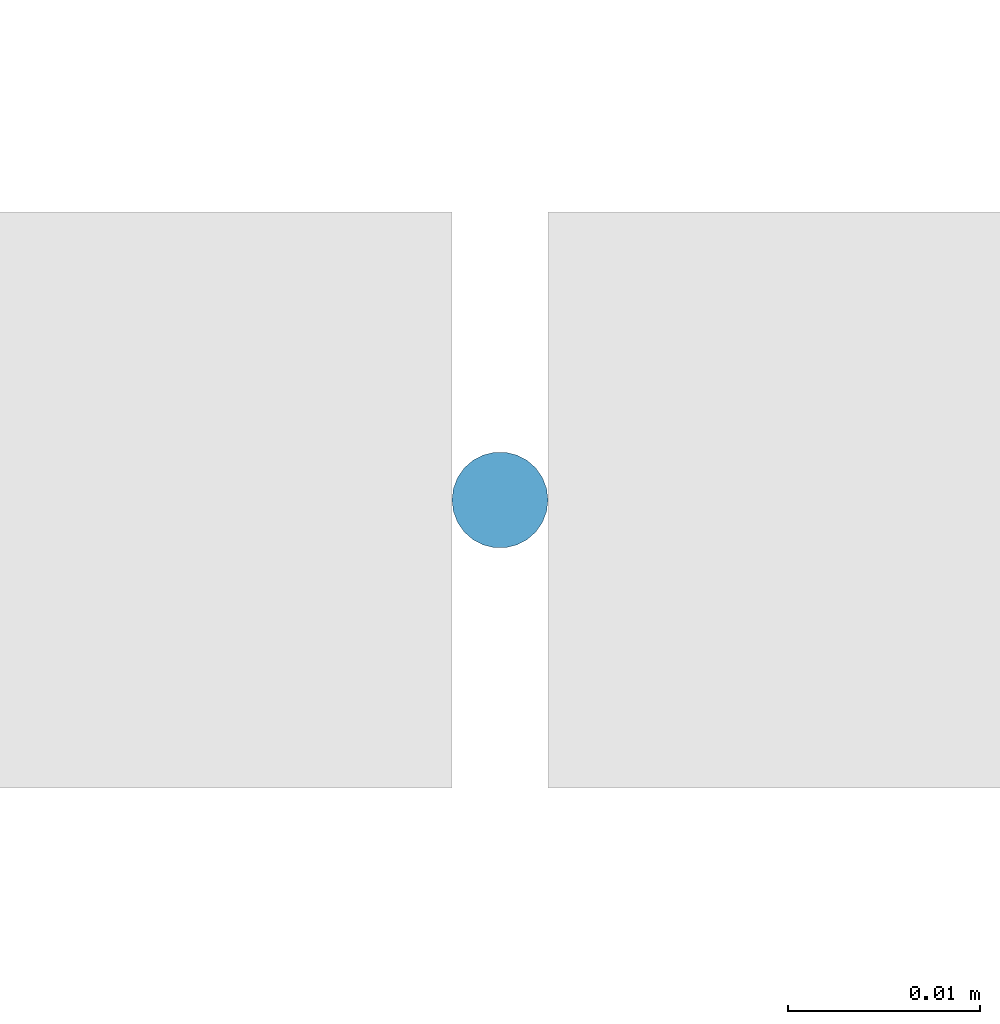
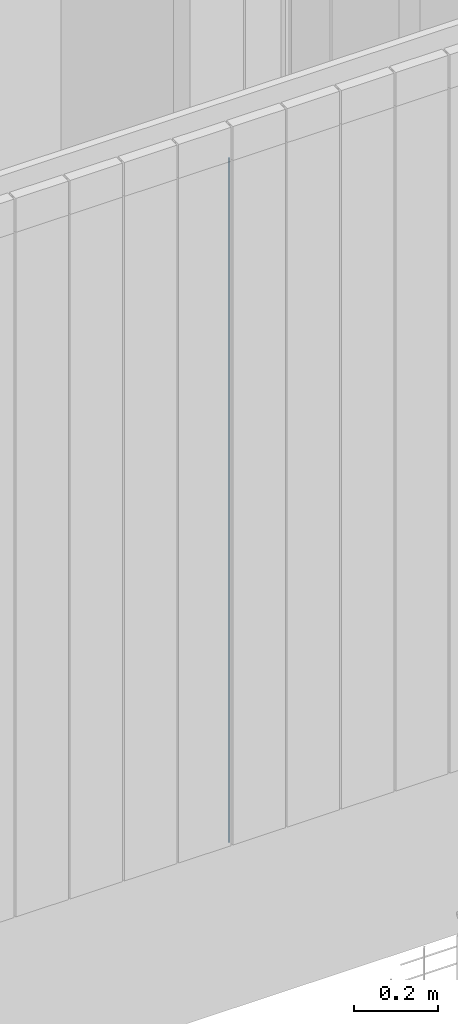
# One storey, part 15 of 81: 1 member, 1 element without a shape of its own.
"""IFC2X3 building model written with IfcOpenShell, lengths in metres."""

from ifc_helpers import new_model, entity, si_unit, converted_unit, derived_unit, direction, frame, frame_2d, origin, place, context, subcontext, project, spatial, circle, extrude, source, transform, mapped, material, type_object, type_shapes, element, aggregate, save


model = new_model("IFC2X3")

# Units and contexts
model_context = context("Model", 3, precision=1e-05, world=origin(), true_north=direction((6.12303176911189e-17, 1.0)))
body_context = subcontext(model_context, "Body", "Model", "MODEL_VIEW")
ifc_project = project(units=[si_unit("LENGTHUNIT", "METRE"), si_unit("AREAUNIT", "SQUARE_METRE"), si_unit("VOLUMEUNIT", "CUBIC_METRE"), converted_unit("PLANEANGLEUNIT", "DEGREE", entity("IfcRatioMeasure", 0.0174532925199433), si_unit("PLANEANGLEUNIT", "RADIAN"), dimensions=[0, 0, 0, 0, 0, 0, 0]), si_unit("MASSUNIT", "GRAM", prefix="KILO"), derived_unit("MASSDENSITYUNIT", [(si_unit("MASSUNIT", "GRAM", prefix="KILO"), 1), (si_unit("LENGTHUNIT", "METRE"), -3)]), derived_unit("MOMENTOFINERTIAUNIT", [(si_unit("LENGTHUNIT", "METRE"), 4)]), si_unit("TIMEUNIT", "SECOND"), si_unit("FREQUENCYUNIT", "HERTZ"), si_unit("THERMODYNAMICTEMPERATUREUNIT", "DEGREE_CELSIUS"), derived_unit("THERMALTRANSMITTANCEUNIT", [(si_unit("MASSUNIT", "GRAM", prefix="KILO"), 1), (si_unit("THERMODYNAMICTEMPERATUREUNIT", "KELVIN"), -1), (si_unit("TIMEUNIT", "SECOND"), -3)]), derived_unit("VOLUMETRICFLOWRATEUNIT", [(si_unit("LENGTHUNIT", "METRE"), 3), (si_unit("TIMEUNIT", "SECOND"), -1)]), si_unit("ELECTRICCURRENTUNIT", "AMPERE"), si_unit("ELECTRICVOLTAGEUNIT", "VOLT"), si_unit("POWERUNIT", "WATT"), si_unit("FORCEUNIT", "NEWTON", prefix="KILO"), si_unit("ILLUMINANCEUNIT", "LUX"), si_unit("LUMINOUSFLUXUNIT", "LUMEN"), si_unit("LUMINOUSINTENSITYUNIT", "CANDELA"), derived_unit("USERDEFINED", [(si_unit("MASSUNIT", "GRAM", prefix="KILO"), -1), (si_unit("LENGTHUNIT", "METRE"), -2), (si_unit("TIMEUNIT", "SECOND"), 3), (si_unit("LUMINOUSFLUXUNIT", "LUMEN"), 1)]), derived_unit("LINEARVELOCITYUNIT", [(si_unit("LENGTHUNIT", "METRE"), 1), (si_unit("TIMEUNIT", "SECOND"), -1)]), si_unit("PRESSUREUNIT", "PASCAL"), derived_unit("USERDEFINED", [(si_unit("LENGTHUNIT", "METRE"), -2), (si_unit("MASSUNIT", "GRAM", prefix="KILO"), 1), (si_unit("TIMEUNIT", "SECOND"), -2)]), derived_unit("LINEARFORCEUNIT", [(si_unit("MASSUNIT", "GRAM", prefix="KILO"), 1), (si_unit("LENGTHUNIT", "METRE"), 1), (si_unit("TIMEUNIT", "SECOND"), -2), (si_unit("LENGTHUNIT", "METRE"), -1)]), derived_unit("PLANARFORCEUNIT", [(si_unit("MASSUNIT", "GRAM", prefix="KILO"), 1), (si_unit("LENGTHUNIT", "METRE"), 1), (si_unit("TIMEUNIT", "SECOND"), -2), (si_unit("LENGTHUNIT", "METRE"), -2)])], contexts=[model_context])

# Site, building, storey
site_placement = place(None, origin())
site = spatial("IfcSite", under=ifc_project, at=site_placement, Name="Surface", CompositionType="ELEMENT")
building_placement = place(site_placement, origin())
building = spatial("IfcBuilding", under=site, at=building_placement, CompositionType="ELEMENT")
storey_placement = place(building_placement, origin())
storey = spatial("IfcBuildingStorey", under=building, at=storey_placement, Name="01 RDC", CompositionType="ELEMENT", Elevation=-1.94916083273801e-14)

# Curtain wall, member
curtain_wall_type = type_object("IfcCurtainWallType", Name="Mur-rideau:1m x 2m", PredefinedType="NOTDEFINED")
curtain_wall_placement = place(storey_placement, origin())
curtain_wall = element("IfcCurtainWall", 1, at=curtain_wall_placement, inside=storey, type_object=curtain_wall_type, Name="Mur-rideau:1m x 2m", ObjectType="Mur-rideau:1m x 2m")
ifc_material = material(Name="Aluminium - Vert")
member_type = type_object("IfcMemberType", Name="Meneau circulaire:R-30 mm", PredefinedType="MULLION", material=ifc_material)
shared_shape = source(origin(), body_context, "Body", "SweptSolid", [
    extrude(circle(Radius=0.0025, at=frame_2d((-8.37005581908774e-27, 3.23452349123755e-15), x_axis=(1.0, 0.0))), frame((0.0, 0.0, -2.0), z_axis=(0.0, 0.0, 1.0), x_axis=(-1.0, 0.0, 0.0)), (0.0, 0.0, 1.0), 2.0),
])
type_shapes(member_type, [shared_shape])
member_placement = place(storey_placement, frame((6.81906158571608, -6.30971095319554, 0.3), z_axis=(0.0, 0.0, -1.0), x_axis=(-1.0, 0.0, 0.0)))
member = element("IfcMember", 2, at=member_placement, type_object=member_type, material=ifc_material, Name="Meneau circulaire:R-30 mm", ObjectType="Meneau circulaire:R-30 mm", context=body_context, shape_type="MappedRepresentation", body=[
    mapped(shared_shape, transform((0.0, 0.0, 0.0), scale=1.0)),
])
aggregate(curtain_wall, [member])

save(model, "model.ifc")
